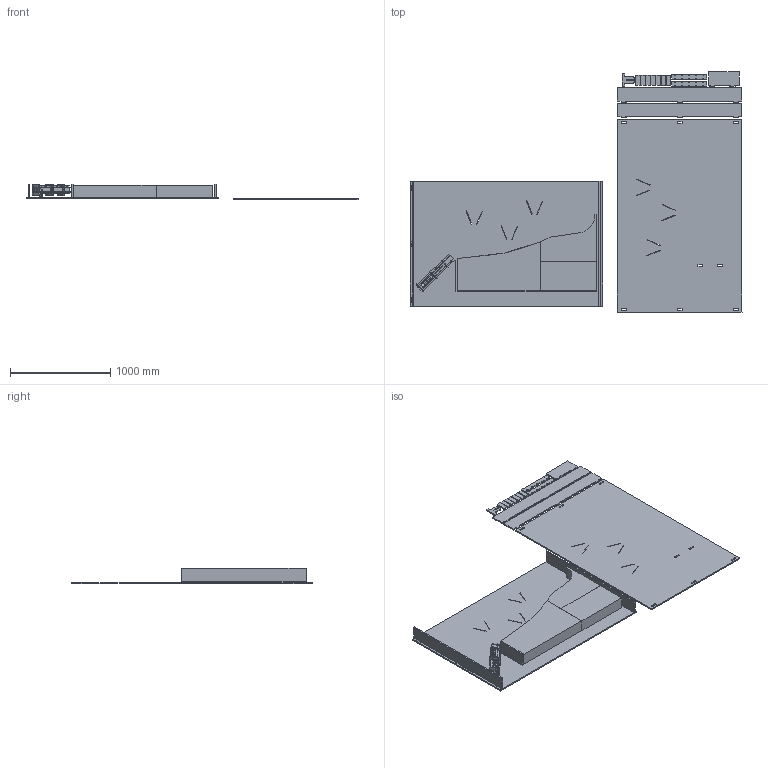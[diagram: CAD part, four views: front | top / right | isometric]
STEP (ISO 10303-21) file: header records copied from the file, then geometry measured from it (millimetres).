
FILE_DESCRIPTION(/* description */ (''),/* implementation_level */ '2;1');
FILE_NAME(/* name */ 'C:/Users/jakob/dev/fablabverket/students/100/web/assignments/week9/cad/pingpong_assy_step.step',/* time_stamp */ '2017-04-11T15:57:12+02:00',/* author */ (''),/* organization */ (''),/* preprocessor_version */ 'ST-DEVELOPER v16.5',/* originating_system */ 'Autodesk Translation Framework v5.2.0.2920',/* authorisation */ '');
FILE_SCHEMA (('AUTOMOTIVE_DESIGN { 1 0 10303 214 3 1 1 }'));
Length unit declared in the file: millimetre
Products named in the file (29): Pingpong v14; layout; stock; spacer; spacer_small; Component28; assembly (1); Bakplate; Venstre; Høyre; assembly; sldier-base; sldier-base (1); outer_flat; second_ridge; inner_flat; first_ridge; wall; mid; top; wal2; back; front; lower_guide; bottom; hook; Carton; cutter; wall_internal
Assembly tree (40 placements, depth 5):
  Pingpong v14
    layout
      Bakplate
      Venstre
      Høyre
      wall_internal
      stock
      spacer  x2
      spacer_small  x7
      Component28
    assembly (1)
      Bakplate
      Venstre
      Høyre
      assembly
        sldier-base
          sldier-base (1)
          outer_flat
          second_ridge
          inner_flat
          first_ridge
        wall
        mid
        top
        wal2
        back
        front
        lower_guide
        bottom
        hook
      Carton
      cutter  x2
      wall_internal
Bounding box: 3303.93 x 2390.13 x 158 mm (x, y, z)
Volume: 149565893.4 mm3; surface area: 13965489.6 mm2
Topology: 37 solids, 37 shells, 1221 faces, 3441 edges, 2294 vertices
Faces by surface type: plane 981, cylinder 238, bspline 2
Full cylindrical faces by diameter (mm): 2 x7, 4 x57
Entity records: 32117 total; most frequent: CARTESIAN_POINT 5655, ORIENTED_EDGE 5386, DIRECTION 5113, EDGE_CURVE 2693, LINE 2337, VECTOR 2337, VERTEX_POINT 1838, AXIS2_PLACEMENT_3D 1388
